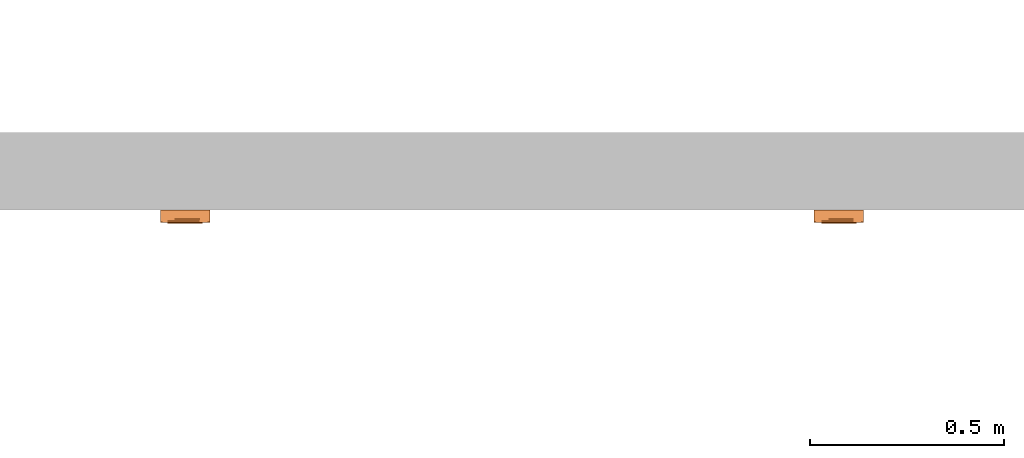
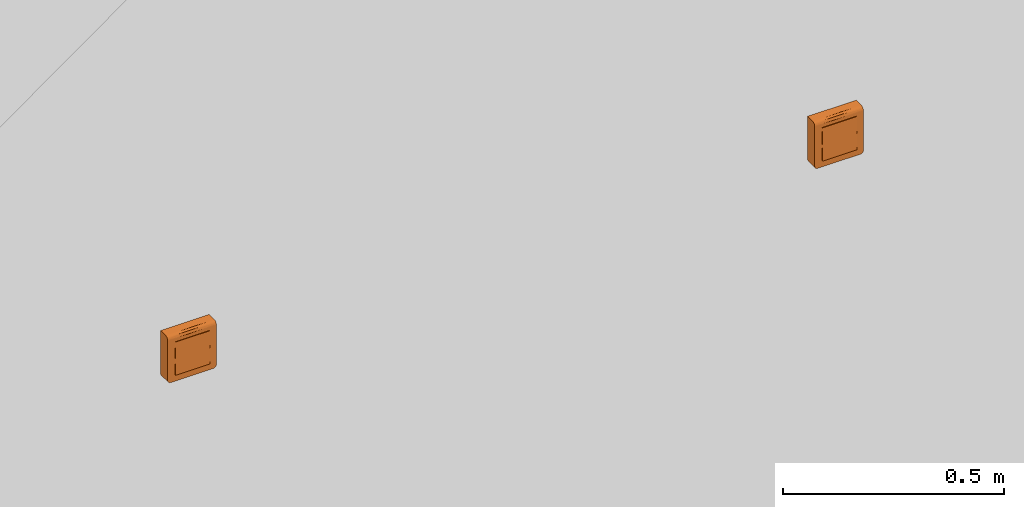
# One storey, part 169 of 197: 2 proxies.
"""IFC2X3 building model written with IfcOpenShell, lengths in metres."""

from ifc_helpers import new_model, entity, si_unit, converted_unit, direction, frame, origin, place, context, subcontext, project, spatial, faceted_brep, source, transform, mapped, material, material_list, type_object, type_shapes, element, save


model = new_model("IFC2X3")

# Units and contexts
model_context = context("Model", 3, precision=1e-05, world=origin(), true_north=direction((6.123031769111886e-17, 1.0)))
body_context = subcontext(model_context, "Body", "Model", "MODEL_VIEW")
ifc_project = project(units=[si_unit("LENGTHUNIT", "METRE"), converted_unit("PLANEANGLEUNIT", "DEGREE", entity("IfcPlaneAngleMeasure", 0.017453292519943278), si_unit("PLANEANGLEUNIT", "RADIAN"), dimensions=[0, 0, 0, 0, 0, 0, 0]), si_unit("AREAUNIT", "SQUARE_METRE")], contexts=[model_context])

# Site, building, storey
site_placement = place(None, origin())
site = spatial("IfcSite", under=ifc_project, at=site_placement, Name="Default", CompositionType="ELEMENT")
building_placement = place(site_placement, origin())
building = spatial("IfcBuilding", under=site, at=building_placement, CompositionType="ELEMENT")
storey_placement = place(building_placement, origin())
storey = spatial("IfcBuildingStorey", under=building, at=storey_placement, Name="Niveau 0", CompositionType="ELEMENT", Elevation=0.0)

# Proxies
ifc_material_1 = material(Name="BETCE-CADRE-BLANC")
ifc_material_2 = material(Name="BETCE-DOIGT-BLANC")
ifc_material_3 = material(Name="BETCE-ENJOLIVEUR-BLANC")
ifc_material_list = material_list([ifc_material_1, ifc_material_2, ifc_material_3])
building_element_proxy_type_1 = type_object("IfcBuildingElementProxyType", Name="Tableau commande 2x4 modules saillie:1 SA + 7 VV", PredefinedType="NOTDEFINED", material=ifc_material_list)
shared_shape_1 = source(origin(), body_context, "Body", "Brep", [
    faceted_brep([(0.06349999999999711, -0.022999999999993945, 0.0635), (-0.06350000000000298, -0.022999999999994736, 0.0635), (-0.06350000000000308, -0.022999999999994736, -0.055499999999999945), (-0.06322740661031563, -0.022999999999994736, -0.05757055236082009), (-0.06242820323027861, -0.02299999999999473, -0.059499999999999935), (-0.06115685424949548, -0.022999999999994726, -0.06115685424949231), (-0.05950000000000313, -0.022999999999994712, -0.06242820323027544), (-0.05757055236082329, -0.0229999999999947, -0.06322740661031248), (-0.05550000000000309, -0.022999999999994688, -0.06350000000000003), (0.055499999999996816, -0.022999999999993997, -0.0635000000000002), (0.057570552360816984, -0.022999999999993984, -0.06322740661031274), (0.05949999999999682, -0.022999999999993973, -0.062428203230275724), (0.06115685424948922, -0.022999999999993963, -0.061156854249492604), (0.062428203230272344, -0.022999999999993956, -0.05950000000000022), (0.0632274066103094, -0.022999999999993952, -0.0575705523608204), (0.06349999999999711, -0.022999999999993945, -0.05550000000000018), (-0.05550000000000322, 0.0, -0.06349999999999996), (-0.05757055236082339, 0.0, -0.06322740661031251), (-0.05950000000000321, 0.0, -0.062428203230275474), (-0.06115685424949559, 0.0, -0.06115685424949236), (-0.06242820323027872, 0.0, -0.05949999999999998), (-0.06322740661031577, 0.0, -0.05757055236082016), (-0.06350000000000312, 0.0, -0.055499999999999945), (-0.06350000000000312, 0.0, 0.0635), (0.06349999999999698, 0.0, 0.0635), (0.06349999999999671, 0.0, -0.05550000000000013), (0.06322740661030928, 0.0, -0.0575705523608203), (0.06242820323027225, 0.0, -0.05950000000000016), (0.06115685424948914, 0.0, -0.061156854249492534), (0.059499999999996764, 0.0, -0.062428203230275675), (0.05757055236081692, 0.0, -0.06322740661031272), (0.055499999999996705, 0.0, -0.0635)], [[[0, 1, 2, 3, 4, 5, 6, 7, 8, 9, 10, 11, 12, 13, 14, 15]], [[16, 17, 18, 19, 20, 21, 22, 23, 24, 25, 26, 27, 28, 29, 30, 31]], [[2, 1, 23, 22]], [[9, 8, 16, 31]], [[0, 15, 25, 24]], [[1, 0, 24, 23]], [[25, 15, 14, 26]], [[26, 14, 13, 27]], [[27, 13, 12, 28]], [[29, 11, 10, 30]], [[30, 10, 9, 31]], [[28, 12, 11, 29]], [[17, 16, 8, 7]], [[18, 17, 7, 6]], [[19, 18, 6, 5]], [[20, 19, 5, 4]], [[21, 20, 4, 3]], [[22, 21, 3, 2]]]),
    faceted_brep([(0.022499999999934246, -0.022999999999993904, -0.045000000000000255), (0.022499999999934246, -0.022999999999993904, 0.0), (0.04499999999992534, -0.022999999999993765, 0.0), (0.04499999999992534, -0.022999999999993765, -0.045000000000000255), (0.022499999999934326, -0.03574999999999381, -0.045000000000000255), (0.02249999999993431, -0.033499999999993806, 0.0), (0.044999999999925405, -0.03349999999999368, 0.0), (0.04499999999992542, -0.03574999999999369, -0.045000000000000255)], [[[0, 1, 2, 3]], [[1, 0, 4, 5]], [[2, 1, 5, 6]], [[3, 2, 6, 7]], [[0, 3, 7, 4]], [[5, 4, 7, 6]]]),
    faceted_brep([(0.0, -0.022999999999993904, -0.04500000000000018), (0.0, -0.022999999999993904, 0.0), (0.02249999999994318, -0.022999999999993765, 0.0), (0.02249999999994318, -0.022999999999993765, -0.04500000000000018), (0.0, -0.03574999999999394, -0.04500000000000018), (0.0, -0.03349999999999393, 0.0), (0.022499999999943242, -0.033499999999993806, 0.0), (0.02249999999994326, -0.03574999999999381, -0.04500000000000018)], [[[0, 1, 2, 3]], [[1, 0, 4, 5]], [[2, 1, 5, 6]], [[3, 2, 6, 7]], [[0, 3, 7, 4]], [[5, 4, 7, 6]]]),
    faceted_brep([(-0.02250000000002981, -0.022999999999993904, -0.0450000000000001), (-0.02250000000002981, -0.022999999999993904, 0.0), (0.0, -0.022999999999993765, 0.0), (0.0, -0.022999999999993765, -0.0450000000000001), (-0.02250000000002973, -0.03574999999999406, -0.0450000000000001), (-0.022500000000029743, -0.03349999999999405, 0.0), (0.0, -0.033499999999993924, 0.0), (0.0, -0.03574999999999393, -0.0450000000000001)], [[[0, 1, 2, 3]], [[1, 0, 4, 5]], [[2, 1, 5, 6]], [[3, 2, 6, 7]], [[0, 3, 7, 4]], [[5, 4, 7, 6]]]),
    faceted_brep([(-0.04500000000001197, -0.022999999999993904, -0.045000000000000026), (-0.04500000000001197, -0.022999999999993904, 0.0), (-0.022500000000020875, -0.022999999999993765, 0.0), (-0.022500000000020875, -0.022999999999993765, -0.045000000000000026), (-0.04500000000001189, -0.03574999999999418, -0.045000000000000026), (-0.0450000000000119, -0.03349999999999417, 0.0), (-0.02250000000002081, -0.03349999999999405, 0.0), (-0.022500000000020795, -0.03574999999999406, -0.045000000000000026)], [[[0, 1, 2, 3]], [[1, 0, 4, 5]], [[2, 1, 5, 6]], [[3, 2, 6, 7]], [[0, 3, 7, 4]], [[5, 4, 7, 6]]]),
    faceted_brep([(0.02249999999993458, -0.03349999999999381, 0.04499999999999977), (0.022499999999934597, -0.03574999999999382, 0.0), (0.04499999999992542, -0.0357499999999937, 0.0), (0.044999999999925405, -0.03349999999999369, 0.04499999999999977), (0.022499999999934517, -0.022999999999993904, 0.0), (0.022499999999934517, -0.022999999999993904, 0.04499999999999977), (0.04499999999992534, -0.022999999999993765, 0.04499999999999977), (0.04499999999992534, -0.022999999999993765, 0.0)], [[[0, 1, 2, 3]], [[4, 5, 6, 7]], [[5, 4, 1, 0]], [[6, 5, 0, 3]], [[7, 6, 3, 2]], [[4, 7, 2, 1]]]),
    faceted_brep([(0.0, -0.03349999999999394, 0.044999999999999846), (0.0, -0.035749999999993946, 0.0), (0.02249999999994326, -0.03574999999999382, 0.0), (0.022499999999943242, -0.03349999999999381, 0.044999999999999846), (0.0, -0.022999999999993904, 0.0), (0.0, -0.022999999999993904, 0.044999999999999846), (0.02249999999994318, -0.022999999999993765, 0.04499999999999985), (0.02249999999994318, -0.022999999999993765, 0.0)], [[[0, 1, 2, 3]], [[4, 5, 6, 7]], [[5, 4, 1, 0]], [[6, 5, 0, 3]], [[7, 6, 3, 2]], [[4, 7, 2, 1]]]),
    faceted_brep([(-0.022500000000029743, -0.03349999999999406, 0.04499999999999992), (-0.02250000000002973, -0.03574999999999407, 0.0), (0.0, -0.03574999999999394, 0.0), (0.0, -0.03349999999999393, 0.04499999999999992), (-0.02250000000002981, -0.022999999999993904, 0.0), (-0.02250000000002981, -0.022999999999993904, 0.04499999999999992), (0.0, -0.022999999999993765, 0.04499999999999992), (0.0, -0.022999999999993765, 0.0)], [[[0, 1, 2, 3]], [[4, 5, 6, 7]], [[5, 4, 1, 0]], [[6, 5, 0, 3]], [[7, 6, 3, 2]], [[4, 7, 2, 1]]]),
    faceted_brep([(-0.04500000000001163, -0.03349999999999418, 0.045), (-0.045000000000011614, -0.03574999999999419, 0.0), (-0.022500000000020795, -0.035749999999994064, 0.0), (-0.02250000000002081, -0.03349999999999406, 0.045), (-0.0450000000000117, -0.022999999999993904, 0.0), (-0.0450000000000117, -0.022999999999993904, 0.045), (-0.022500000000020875, -0.022999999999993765, 0.045000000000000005), (-0.022500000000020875, -0.022999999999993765, 0.0)], [[[0, 1, 2, 3]], [[4, 5, 6, 7]], [[5, 4, 1, 0]], [[6, 5, 0, 3]], [[7, 6, 3, 2]], [[4, 7, 2, 1]]]),
    faceted_brep([(0.06349999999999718, -0.03199999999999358, -0.055500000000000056), (0.063499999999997, -0.03199999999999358, 0.05450000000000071), (0.04499999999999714, -0.03199999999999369, -0.045000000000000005), (0.05549999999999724, -0.03199999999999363, -0.06350000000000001), (0.057570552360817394, -0.03199999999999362, -0.06322740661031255), (0.06322740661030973, -0.03199999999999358, -0.05757055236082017), (0.04499999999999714, -0.03199999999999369, 0.045), (-0.04500000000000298, -0.031999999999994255, 0.045000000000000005), (-0.011124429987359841, -0.03199999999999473, 0.054500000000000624), (-0.06350000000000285, -0.03199999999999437, 0.05450000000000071), (-0.04500000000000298, -0.031999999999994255, -0.045000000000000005), (-0.06350000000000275, -0.03199999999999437, -0.05550000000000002), (-0.05550000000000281, -0.03199999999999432, -0.06350000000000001), (-0.05757055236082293, -0.03199999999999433, -0.06322740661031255), (-0.06322740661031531, -0.031999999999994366, -0.05757055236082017), (-0.05950000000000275, -0.031999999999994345, -0.062428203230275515), (-0.06242820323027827, -0.03199999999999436, -0.05950000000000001), (-0.06115685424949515, -0.03199999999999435, -0.06115685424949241), (0.05949999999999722, -0.0319999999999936, -0.062428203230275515), (0.062428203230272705, -0.03199999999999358, -0.05949999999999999), (0.06115685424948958, -0.031999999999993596, -0.061156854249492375), (-0.06350000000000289, -0.02299999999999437, -0.05550000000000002), (-0.06350000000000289, -0.02299999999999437, 0.06350000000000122), (-0.04500000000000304, -0.02299999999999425, 0.045000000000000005), (-0.04500000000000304, -0.02299999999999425, -0.045000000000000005), (-0.05550000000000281, -0.02299999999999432, -0.06350000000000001), (-0.06322740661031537, -0.022999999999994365, -0.05757055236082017), (0.04499999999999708, -0.022999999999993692, 0.045000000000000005), (0.011124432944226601, -0.022999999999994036, 0.06350000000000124), (0.06349999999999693, -0.022999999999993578, 0.0635), (0.06349999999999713, -0.022999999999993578, -0.05550000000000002), (0.04499999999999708, -0.022999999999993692, -0.045000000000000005), (0.05549999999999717, -0.02299999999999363, -0.06350000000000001), (0.06322740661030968, -0.022999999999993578, -0.05757055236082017), (0.05757055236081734, -0.022999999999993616, -0.06322740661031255), (0.06242820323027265, -0.022999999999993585, -0.05949999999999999), (0.05949999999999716, -0.022999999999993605, -0.062428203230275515), (0.06115685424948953, -0.02299999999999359, -0.061156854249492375), (-0.05757055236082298, -0.02299999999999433, -0.06322740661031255), (-0.062428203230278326, -0.022999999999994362, -0.05950000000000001), (-0.05950000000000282, -0.022999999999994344, -0.062428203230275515), (-0.0611568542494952, -0.02299999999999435, -0.06115685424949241), (0.06349999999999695, -0.025329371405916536, 0.06319333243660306), (0.06349999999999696, -0.02749999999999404, 0.06229422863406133), (0.06349999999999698, -0.029363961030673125, 0.060863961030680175), (0.06349999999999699, -0.03079422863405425, 0.05900000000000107), (0.06349999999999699, -0.03169333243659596, 0.05682937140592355), (-0.06350000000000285, -0.03169333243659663, 0.0568293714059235), (-0.06350000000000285, -0.030794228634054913, 0.059000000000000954), (-0.06350000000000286, -0.029363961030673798, 0.06086396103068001), (-0.06350000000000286, -0.027499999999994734, 0.062294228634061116), (-0.06350000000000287, -0.025329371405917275, 0.06319333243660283), (-0.010857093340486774, -0.029120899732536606, 0.06109807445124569)], [[[0, 1, 2]], [[3, 0, 2]], [[0, 3, 4]], [[5, 0, 4]], [[2, 1, 6]], [[1, 7, 6]], [[7, 1, 8]], [[7, 8, 9]], [[10, 7, 9]], [[11, 10, 9]], [[12, 10, 11]], [[12, 11, 13]], [[13, 11, 14]], [[15, 13, 14]], [[16, 15, 14]], [[15, 16, 17]], [[10, 12, 3]], [[2, 10, 3]], [[5, 4, 18]], [[5, 18, 19]], [[20, 19, 18]], [[21, 22, 23]], [[24, 21, 23]], [[25, 21, 24]], [[26, 21, 25]], [[22, 27, 23]], [[27, 22, 28]], [[27, 28, 29]], [[30, 27, 29]], [[31, 27, 30]], [[32, 31, 30]], [[32, 30, 33]], [[32, 33, 34]], [[33, 35, 34]], [[35, 36, 34]], [[36, 35, 37]], [[31, 32, 25]], [[26, 25, 38]], [[24, 31, 25]], [[39, 26, 38]], [[39, 38, 40]], [[41, 39, 40]], [[1, 0, 30, 29, 42, 43, 44, 45, 46]], [[33, 30, 0, 5]], [[35, 33, 5, 19]], [[37, 35, 19, 20]], [[36, 37, 20, 18]], [[34, 36, 18, 4]], [[32, 34, 4, 3]], [[25, 32, 3, 12]], [[38, 25, 12, 13]], [[40, 38, 13, 15]], [[41, 40, 15, 17]], [[39, 41, 17, 16]], [[26, 39, 16, 14]], [[21, 26, 14, 11]], [[22, 21, 11, 9, 47, 48, 49, 50, 51]], [[24, 23, 7, 10]], [[31, 24, 10, 2]], [[27, 31, 2, 6]], [[23, 27, 6, 7]], [[52, 8, 45]], [[47, 9, 8]], [[1, 46, 8]], [[44, 52, 45]], [[46, 45, 8]], [[50, 52, 51]], [[48, 47, 8]], [[28, 52, 43]], [[48, 52, 49]], [[42, 29, 28]], [[28, 22, 51]], [[48, 8, 52]], [[28, 43, 42]], [[44, 43, 52]], [[52, 50, 49]], [[52, 28, 51]]]),
])
type_shapes(building_element_proxy_type_1, [shared_shape_1])
proxy_1_placement = place(storey_placement, frame((-345.7277796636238, 116.01635778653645, 1.1)))
element("IfcBuildingElementProxy", 1, at=proxy_1_placement, inside=storey, type_object=building_element_proxy_type_1, material=ifc_material_list, Name="Tableau commande 2x4 modules saillie:1 SA + 7 VV", ObjectType="Tableau commande 2x4 modules saillie:1 SA + 7 VV", context=body_context, shape_type="MappedRepresentation", body=[
    mapped(shared_shape_1, transform((0.0, 0.0, 0.0), scale=1.0)),
])
building_element_proxy_type_2 = type_object("IfcBuildingElementProxyType", Name="Tableau commande 2x4 modules saillie:2 SA + 6 VV", PredefinedType="NOTDEFINED", material=ifc_material_list)
shared_shape_2 = source(origin(), body_context, "Body", "Brep", [
    faceted_brep([(0.06349999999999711, -0.022999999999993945, 0.0635), (-0.06350000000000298, -0.022999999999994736, 0.0635), (-0.06350000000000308, -0.022999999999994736, -0.055499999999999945), (-0.06322740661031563, -0.022999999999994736, -0.05757055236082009), (-0.06242820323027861, -0.02299999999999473, -0.059499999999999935), (-0.06115685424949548, -0.022999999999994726, -0.06115685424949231), (-0.05950000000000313, -0.022999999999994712, -0.06242820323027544), (-0.05757055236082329, -0.0229999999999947, -0.06322740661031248), (-0.05550000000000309, -0.022999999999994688, -0.06350000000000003), (0.055499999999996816, -0.022999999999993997, -0.0635000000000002), (0.057570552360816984, -0.022999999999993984, -0.06322740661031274), (0.05949999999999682, -0.022999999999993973, -0.062428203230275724), (0.06115685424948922, -0.022999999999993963, -0.061156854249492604), (0.062428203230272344, -0.022999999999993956, -0.05950000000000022), (0.0632274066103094, -0.022999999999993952, -0.0575705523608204), (0.06349999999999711, -0.022999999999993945, -0.05550000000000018), (-0.05550000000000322, 0.0, -0.06349999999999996), (-0.05757055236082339, 0.0, -0.06322740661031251), (-0.05950000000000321, 0.0, -0.062428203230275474), (-0.06115685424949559, 0.0, -0.06115685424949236), (-0.06242820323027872, 0.0, -0.05949999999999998), (-0.06322740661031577, 0.0, -0.05757055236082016), (-0.06350000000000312, 0.0, -0.055499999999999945), (-0.06350000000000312, 0.0, 0.0635), (0.06349999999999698, 0.0, 0.0635), (0.06349999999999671, 0.0, -0.05550000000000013), (0.06322740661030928, 0.0, -0.0575705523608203), (0.06242820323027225, 0.0, -0.05950000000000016), (0.06115685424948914, 0.0, -0.061156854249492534), (0.059499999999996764, 0.0, -0.062428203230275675), (0.05757055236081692, 0.0, -0.06322740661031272), (0.055499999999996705, 0.0, -0.0635)], [[[0, 1, 2, 3, 4, 5, 6, 7, 8, 9, 10, 11, 12, 13, 14, 15]], [[16, 17, 18, 19, 20, 21, 22, 23, 24, 25, 26, 27, 28, 29, 30, 31]], [[2, 1, 23, 22]], [[9, 8, 16, 31]], [[0, 15, 25, 24]], [[1, 0, 24, 23]], [[25, 15, 14, 26]], [[26, 14, 13, 27]], [[27, 13, 12, 28]], [[29, 11, 10, 30]], [[30, 10, 9, 31]], [[28, 12, 11, 29]], [[17, 16, 8, 7]], [[18, 17, 7, 6]], [[19, 18, 6, 5]], [[20, 19, 5, 4]], [[21, 20, 4, 3]], [[22, 21, 3, 2]]]),
    faceted_brep([(0.022499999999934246, -0.022999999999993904, -0.045000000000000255), (0.022499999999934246, -0.022999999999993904, 0.0), (0.04499999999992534, -0.022999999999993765, 0.0), (0.04499999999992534, -0.022999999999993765, -0.045000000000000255), (0.022499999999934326, -0.03574999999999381, -0.045000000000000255), (0.02249999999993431, -0.033499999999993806, 0.0), (0.044999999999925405, -0.03349999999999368, 0.0), (0.04499999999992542, -0.03574999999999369, -0.045000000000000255)], [[[0, 1, 2, 3]], [[1, 0, 4, 5]], [[2, 1, 5, 6]], [[3, 2, 6, 7]], [[0, 3, 7, 4]], [[5, 4, 7, 6]]]),
    faceted_brep([(0.0, -0.022999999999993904, -0.04500000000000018), (0.0, -0.022999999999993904, 0.0), (0.02249999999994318, -0.022999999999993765, 0.0), (0.02249999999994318, -0.022999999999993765, -0.04500000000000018), (0.0, -0.03574999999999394, -0.04500000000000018), (0.0, -0.03349999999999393, 0.0), (0.022499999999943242, -0.033499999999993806, 0.0), (0.02249999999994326, -0.03574999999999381, -0.04500000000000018)], [[[0, 1, 2, 3]], [[1, 0, 4, 5]], [[2, 1, 5, 6]], [[3, 2, 6, 7]], [[0, 3, 7, 4]], [[5, 4, 7, 6]]]),
    faceted_brep([(-0.02250000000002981, -0.022999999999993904, -0.0450000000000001), (-0.02250000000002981, -0.022999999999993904, 0.0), (0.0, -0.022999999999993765, 0.0), (0.0, -0.022999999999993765, -0.0450000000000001), (-0.02250000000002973, -0.03574999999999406, -0.0450000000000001), (-0.022500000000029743, -0.03349999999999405, 0.0), (0.0, -0.033499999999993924, 0.0), (0.0, -0.03574999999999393, -0.0450000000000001)], [[[0, 1, 2, 3]], [[1, 0, 4, 5]], [[2, 1, 5, 6]], [[3, 2, 6, 7]], [[0, 3, 7, 4]], [[5, 4, 7, 6]]]),
    faceted_brep([(-0.04500000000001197, -0.022999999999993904, -0.045000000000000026), (-0.04500000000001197, -0.022999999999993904, 0.0), (-0.022500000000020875, -0.022999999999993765, 0.0), (-0.022500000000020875, -0.022999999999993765, -0.045000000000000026), (-0.04500000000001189, -0.03574999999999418, -0.045000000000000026), (-0.0450000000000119, -0.03349999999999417, 0.0), (-0.02250000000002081, -0.03349999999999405, 0.0), (-0.022500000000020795, -0.03574999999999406, -0.045000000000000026)], [[[0, 1, 2, 3]], [[1, 0, 4, 5]], [[2, 1, 5, 6]], [[3, 2, 6, 7]], [[0, 3, 7, 4]], [[5, 4, 7, 6]]]),
    faceted_brep([(0.02249999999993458, -0.03349999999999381, 0.04499999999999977), (0.022499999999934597, -0.03574999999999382, 0.0), (0.04499999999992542, -0.0357499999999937, 0.0), (0.044999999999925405, -0.03349999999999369, 0.04499999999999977), (0.022499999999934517, -0.022999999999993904, 0.0), (0.022499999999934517, -0.022999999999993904, 0.04499999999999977), (0.04499999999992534, -0.022999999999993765, 0.04499999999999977), (0.04499999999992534, -0.022999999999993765, 0.0)], [[[0, 1, 2, 3]], [[4, 5, 6, 7]], [[5, 4, 1, 0]], [[6, 5, 0, 3]], [[7, 6, 3, 2]], [[4, 7, 2, 1]]]),
    faceted_brep([(0.0, -0.03349999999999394, 0.044999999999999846), (0.0, -0.035749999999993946, 0.0), (0.02249999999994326, -0.03574999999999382, 0.0), (0.022499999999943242, -0.03349999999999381, 0.044999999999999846), (0.0, -0.022999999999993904, 0.0), (0.0, -0.022999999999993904, 0.044999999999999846), (0.02249999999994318, -0.022999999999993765, 0.04499999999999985), (0.02249999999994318, -0.022999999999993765, 0.0)], [[[0, 1, 2, 3]], [[4, 5, 6, 7]], [[5, 4, 1, 0]], [[6, 5, 0, 3]], [[7, 6, 3, 2]], [[4, 7, 2, 1]]]),
    faceted_brep([(-0.022500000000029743, -0.03349999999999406, 0.04499999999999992), (-0.02250000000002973, -0.03574999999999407, 0.0), (0.0, -0.03574999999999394, 0.0), (0.0, -0.03349999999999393, 0.04499999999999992), (-0.02250000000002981, -0.022999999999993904, 0.0), (-0.02250000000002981, -0.022999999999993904, 0.04499999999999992), (0.0, -0.022999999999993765, 0.04499999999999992), (0.0, -0.022999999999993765, 0.0)], [[[0, 1, 2, 3]], [[4, 5, 6, 7]], [[5, 4, 1, 0]], [[6, 5, 0, 3]], [[7, 6, 3, 2]], [[4, 7, 2, 1]]]),
    faceted_brep([(-0.04500000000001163, -0.03349999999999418, 0.045), (-0.045000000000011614, -0.03574999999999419, 0.0), (-0.022500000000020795, -0.035749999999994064, 0.0), (-0.02250000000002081, -0.03349999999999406, 0.045), (-0.0450000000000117, -0.022999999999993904, 0.0), (-0.0450000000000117, -0.022999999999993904, 0.045), (-0.022500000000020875, -0.022999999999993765, 0.045000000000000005), (-0.022500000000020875, -0.022999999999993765, 0.0)], [[[0, 1, 2, 3]], [[4, 5, 6, 7]], [[5, 4, 1, 0]], [[6, 5, 0, 3]], [[7, 6, 3, 2]], [[4, 7, 2, 1]]]),
    faceted_brep([(0.06349999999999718, -0.03199999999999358, -0.055500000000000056), (0.063499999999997, -0.03199999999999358, 0.05450000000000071), (0.04499999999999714, -0.03199999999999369, -0.045000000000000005), (0.05549999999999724, -0.03199999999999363, -0.06350000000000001), (0.057570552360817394, -0.03199999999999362, -0.06322740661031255), (0.06322740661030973, -0.03199999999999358, -0.05757055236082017), (0.04499999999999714, -0.03199999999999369, 0.045), (-0.04500000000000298, -0.031999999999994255, 0.045000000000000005), (-0.011124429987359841, -0.03199999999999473, 0.054500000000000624), (-0.06350000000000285, -0.03199999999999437, 0.05450000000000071), (-0.04500000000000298, -0.031999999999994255, -0.045000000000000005), (-0.06350000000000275, -0.03199999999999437, -0.05550000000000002), (-0.05550000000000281, -0.03199999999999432, -0.06350000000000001), (-0.05757055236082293, -0.03199999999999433, -0.06322740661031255), (-0.06322740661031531, -0.031999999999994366, -0.05757055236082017), (-0.05950000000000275, -0.031999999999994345, -0.062428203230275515), (-0.06242820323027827, -0.03199999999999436, -0.05950000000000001), (-0.06115685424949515, -0.03199999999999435, -0.06115685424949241), (0.05949999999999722, -0.0319999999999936, -0.062428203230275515), (0.062428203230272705, -0.03199999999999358, -0.05949999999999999), (0.06115685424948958, -0.031999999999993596, -0.061156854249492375), (-0.06350000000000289, -0.02299999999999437, -0.05550000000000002), (-0.06350000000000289, -0.02299999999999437, 0.06350000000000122), (-0.04500000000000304, -0.02299999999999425, 0.045000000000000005), (-0.04500000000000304, -0.02299999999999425, -0.045000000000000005), (-0.05550000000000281, -0.02299999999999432, -0.06350000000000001), (-0.06322740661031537, -0.022999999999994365, -0.05757055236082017), (0.04499999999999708, -0.022999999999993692, 0.045000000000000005), (0.011124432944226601, -0.022999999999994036, 0.06350000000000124), (0.06349999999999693, -0.022999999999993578, 0.0635), (0.06349999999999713, -0.022999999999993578, -0.05550000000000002), (0.04499999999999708, -0.022999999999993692, -0.045000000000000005), (0.05549999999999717, -0.02299999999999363, -0.06350000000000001), (0.06322740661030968, -0.022999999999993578, -0.05757055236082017), (0.05757055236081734, -0.022999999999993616, -0.06322740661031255), (0.06242820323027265, -0.022999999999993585, -0.05949999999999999), (0.05949999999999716, -0.022999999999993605, -0.062428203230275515), (0.06115685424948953, -0.02299999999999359, -0.061156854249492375), (-0.05757055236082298, -0.02299999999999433, -0.06322740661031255), (-0.062428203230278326, -0.022999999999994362, -0.05950000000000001), (-0.05950000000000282, -0.022999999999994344, -0.062428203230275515), (-0.0611568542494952, -0.02299999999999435, -0.06115685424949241), (0.06349999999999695, -0.025329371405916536, 0.06319333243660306), (0.06349999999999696, -0.02749999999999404, 0.06229422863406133), (0.06349999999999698, -0.029363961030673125, 0.060863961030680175), (0.06349999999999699, -0.03079422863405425, 0.05900000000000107), (0.06349999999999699, -0.03169333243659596, 0.05682937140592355), (-0.06350000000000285, -0.03169333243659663, 0.0568293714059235), (-0.06350000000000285, -0.030794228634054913, 0.059000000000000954), (-0.06350000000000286, -0.029363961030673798, 0.06086396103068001), (-0.06350000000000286, -0.027499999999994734, 0.062294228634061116), (-0.06350000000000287, -0.025329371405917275, 0.06319333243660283), (-0.010857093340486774, -0.029120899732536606, 0.06109807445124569)], [[[0, 1, 2]], [[3, 0, 2]], [[0, 3, 4]], [[5, 0, 4]], [[2, 1, 6]], [[1, 7, 6]], [[7, 1, 8]], [[7, 8, 9]], [[10, 7, 9]], [[11, 10, 9]], [[12, 10, 11]], [[12, 11, 13]], [[13, 11, 14]], [[15, 13, 14]], [[16, 15, 14]], [[15, 16, 17]], [[10, 12, 3]], [[2, 10, 3]], [[5, 4, 18]], [[5, 18, 19]], [[20, 19, 18]], [[21, 22, 23]], [[24, 21, 23]], [[25, 21, 24]], [[26, 21, 25]], [[22, 27, 23]], [[27, 22, 28]], [[27, 28, 29]], [[30, 27, 29]], [[31, 27, 30]], [[32, 31, 30]], [[32, 30, 33]], [[32, 33, 34]], [[33, 35, 34]], [[35, 36, 34]], [[36, 35, 37]], [[31, 32, 25]], [[26, 25, 38]], [[24, 31, 25]], [[39, 26, 38]], [[39, 38, 40]], [[41, 39, 40]], [[1, 0, 30, 29, 42, 43, 44, 45, 46]], [[33, 30, 0, 5]], [[35, 33, 5, 19]], [[37, 35, 19, 20]], [[36, 37, 20, 18]], [[34, 36, 18, 4]], [[32, 34, 4, 3]], [[25, 32, 3, 12]], [[38, 25, 12, 13]], [[40, 38, 13, 15]], [[41, 40, 15, 17]], [[39, 41, 17, 16]], [[26, 39, 16, 14]], [[21, 26, 14, 11]], [[22, 21, 11, 9, 47, 48, 49, 50, 51]], [[24, 23, 7, 10]], [[31, 24, 10, 2]], [[27, 31, 2, 6]], [[23, 27, 6, 7]], [[52, 8, 45]], [[47, 9, 8]], [[1, 46, 8]], [[44, 52, 45]], [[46, 45, 8]], [[50, 52, 51]], [[48, 47, 8]], [[28, 52, 43]], [[48, 52, 49]], [[42, 29, 28]], [[28, 22, 51]], [[48, 8, 52]], [[28, 43, 42]], [[44, 43, 52]], [[52, 50, 49]], [[52, 28, 51]]]),
])
type_shapes(building_element_proxy_type_2, [shared_shape_2])
proxy_2_placement = place(storey_placement, frame((-344.04077966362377, 116.01635778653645, 1.1)))
element("IfcBuildingElementProxy", 2, at=proxy_2_placement, inside=storey, type_object=building_element_proxy_type_2, material=ifc_material_list, Name="Tableau commande 2x4 modules saillie:2 SA + 6 VV", ObjectType="Tableau commande 2x4 modules saillie:2 SA + 6 VV", context=body_context, shape_type="MappedRepresentation", body=[
    mapped(shared_shape_2, transform((0.0, 0.0, 0.0), scale=1.0)),
])

save(model, "model.ifc")
